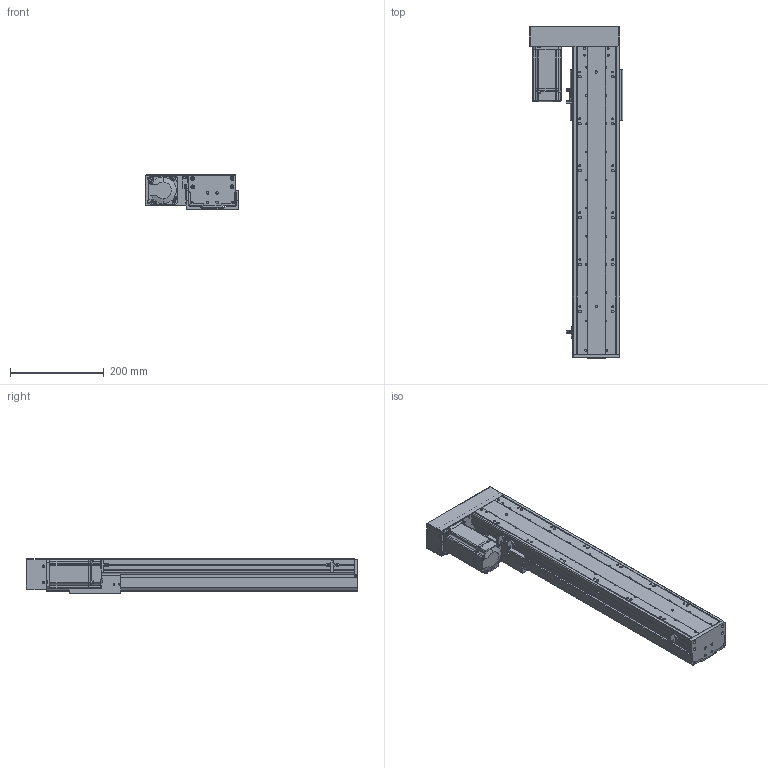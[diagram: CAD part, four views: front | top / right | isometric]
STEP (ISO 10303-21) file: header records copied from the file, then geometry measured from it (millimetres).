
FILE_DESCRIPTION (( 'STEP AP203' ), '1' );
FILE_NAME ('RY100FBS-L1610-300-LK(15双轨）.SLDASM_450.step', '2021-02-23T01:49:16', ( '盈信电脑' ), ( '东莞市道滘镇水果街19号' ), 'SwSTEP 2.0', 'SolidWorks 2012', '' );
FILE_SCHEMA (( 'CONFIG_CONTROL_DESIGN' ));
Length unit declared in the file: millimetre
Products named in the file (14): RY100FBS-酘衵殏萇儂欶; RY100FBS-酘衵殏萇儂啣; RY100FBS-L1610-300-LK(15双轨）.SLDASM_450; RY100FBS-嫖萇覜茼え; 侂狟400W侜督萇儂; RY100FBS-后盖板(15双轨）; 15; 滅袉蝶18-15; 覜茼ん672; RY100FBS-铝滑块（16丝杆）; 滅袉蝶18-24; RY100FBS-300蛌殏奻裔啣-LK_450; RY100FBS-转折支撑座（15双轨）; RY100FBS-300蛌殏菁釱-LK_450
Assembly tree (15 placements, depth 3):
  RY100FBS-L1610-300-LK(15双轨）.SLDASM_450
    RY100FBS-300蛌殏菁釱-LK_450
    RY100FBS-300蛌殏奻裔啣-LK_450
    RY100FBS-转折支撑座（15双轨）
    滅袉蝶18-24
    滅袉蝶18-15
    RY100FBS-铝滑块（16丝杆）
    覜茼ん672  x3
    RY100FBS-嫖萇覜茼え
    侂狟400W侜督萇儂
      15
    RY100FBS-后盖板(15双轨）
    RY100FBS-酘衵殏萇儂啣
    RY100FBS-酘衵殏萇儂欶
Bounding box: 198.75 x 707 x 74 mm (x, y, z)
Volume: 2126885.9 mm3; surface area: 765088.5 mm2
Topology: 14 solids, 14 shells, 1585 faces, 4466 edges, 2894 vertices
Faces by surface type: cylinder 745, plane 688, cone 126, bspline 26
Entity records: 49633 total; most frequent: CARTESIAN_POINT 10536, DIRECTION 7957, ORIENTED_EDGE 7808, EDGE_CURVE 3904, AXIS2_PLACEMENT_3D 2863, VERTEX_POINT 2574, VECTOR 2231, LINE 2231
